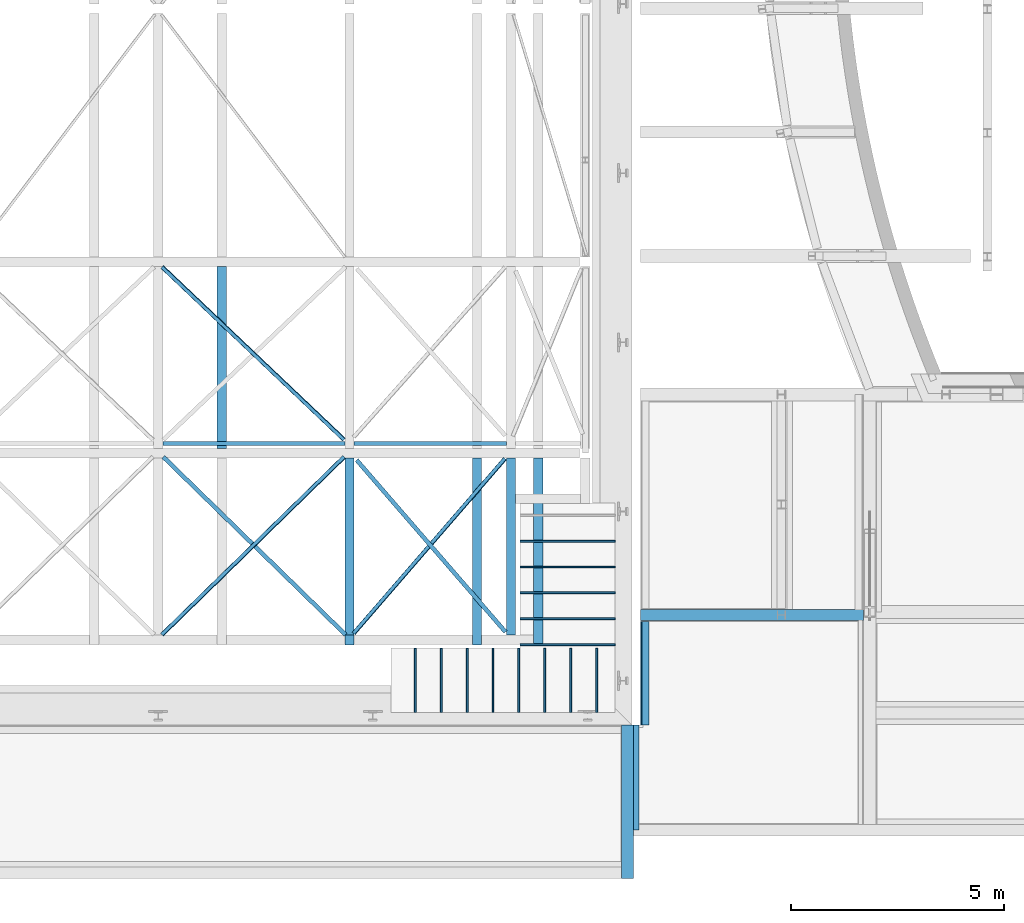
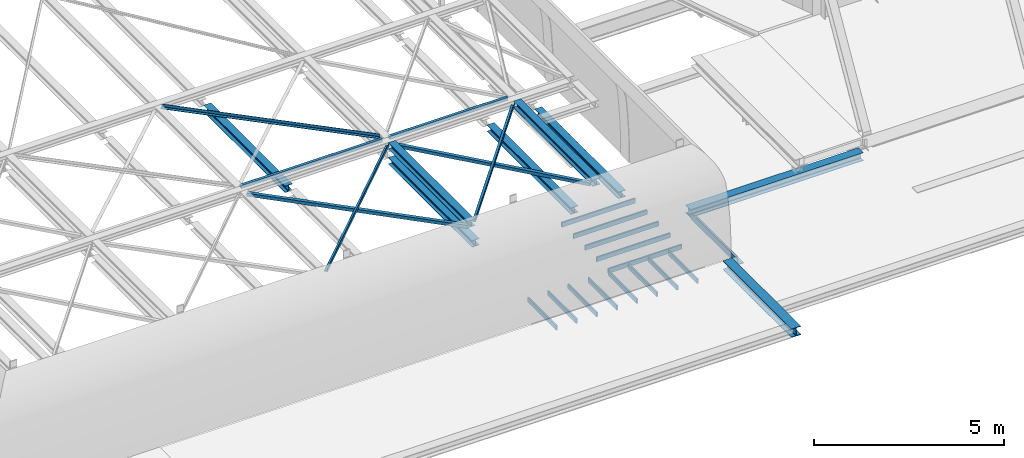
# One storey, part 12 of 38: 29 beams.
"""IFC2X3 building model written with IfcOpenShell, lengths in millimetres."""

from ifc_helpers import new_model, entity, si_unit, converted_unit, derived_unit, direction, frame, frame_2d, origin, place, context, subcontext, project, spatial, polyline, circle_curve, parameter, trimmed, segment, composite_curve, rectangle, i_section, outline, extrude, source, transform, mapped, material, material_list, type_object, type_shapes, element, save


model = new_model("IFC2X3")

# Units and contexts
model_context = context("Model", 3, precision=0.01, world=origin(), true_north=direction((6.12303176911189e-17, 1.0)))
body_context = subcontext(model_context, "Body", "Model", "MODEL_VIEW")
ifc_project = project(units=[si_unit("LENGTHUNIT", "METRE", prefix="MILLI"), si_unit("AREAUNIT", "SQUARE_METRE", prefix="MILLI"), si_unit("VOLUMEUNIT", "CUBIC_METRE"), converted_unit("PLANEANGLEUNIT", "DEGREE", entity("IfcRatioMeasure", 0.0174532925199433), si_unit("PLANEANGLEUNIT", "RADIAN"), dimensions=[0, 0, 0, 0, 0, 0, 0]), si_unit("MASSUNIT", "GRAM", prefix="KILO"), derived_unit("MASSDENSITYUNIT", [(si_unit("MASSUNIT", "GRAM", prefix="KILO"), 1), (si_unit("LENGTHUNIT", "METRE"), -3)]), derived_unit("MOMENTOFINERTIAUNIT", [(si_unit("LENGTHUNIT", "METRE"), 4)]), si_unit("TIMEUNIT", "SECOND"), si_unit("FREQUENCYUNIT", "HERTZ"), si_unit("THERMODYNAMICTEMPERATUREUNIT", "DEGREE_CELSIUS"), derived_unit("THERMALTRANSMITTANCEUNIT", [(si_unit("MASSUNIT", "GRAM", prefix="KILO"), 1), (si_unit("THERMODYNAMICTEMPERATUREUNIT", "KELVIN"), -1), (si_unit("TIMEUNIT", "SECOND"), -3)]), derived_unit("VOLUMETRICFLOWRATEUNIT", [(si_unit("LENGTHUNIT", "METRE"), 3), (si_unit("TIMEUNIT", "SECOND"), -1)]), si_unit("ELECTRICCURRENTUNIT", "AMPERE"), si_unit("ELECTRICVOLTAGEUNIT", "VOLT"), si_unit("POWERUNIT", "WATT"), si_unit("FORCEUNIT", "NEWTON", prefix="KILO"), si_unit("ILLUMINANCEUNIT", "LUX"), si_unit("LUMINOUSFLUXUNIT", "LUMEN"), si_unit("LUMINOUSINTENSITYUNIT", "CANDELA"), derived_unit("USERDEFINED", [(si_unit("MASSUNIT", "GRAM", prefix="KILO"), -1), (si_unit("LENGTHUNIT", "METRE"), -2), (si_unit("TIMEUNIT", "SECOND"), 3), (si_unit("LUMINOUSFLUXUNIT", "LUMEN"), 1)]), derived_unit("LINEARVELOCITYUNIT", [(si_unit("LENGTHUNIT", "METRE"), 1), (si_unit("TIMEUNIT", "SECOND"), -1)]), si_unit("PRESSUREUNIT", "PASCAL"), derived_unit("USERDEFINED", [(si_unit("LENGTHUNIT", "METRE"), -2), (si_unit("MASSUNIT", "GRAM", prefix="KILO"), 1), (si_unit("TIMEUNIT", "SECOND"), -2)]), derived_unit("LINEARFORCEUNIT", [(si_unit("MASSUNIT", "GRAM", prefix="KILO"), 1), (si_unit("LENGTHUNIT", "METRE"), 1), (si_unit("TIMEUNIT", "SECOND"), -2), (si_unit("LENGTHUNIT", "METRE"), -1)]), derived_unit("PLANARFORCEUNIT", [(si_unit("MASSUNIT", "GRAM", prefix="KILO"), 1), (si_unit("LENGTHUNIT", "METRE"), 1), (si_unit("TIMEUNIT", "SECOND"), -2), (si_unit("LENGTHUNIT", "METRE"), -2)])], contexts=[model_context])

# Site, building, storey
site_placement = place(None, origin())
site = spatial("IfcSite", under=ifc_project, at=site_placement, Name="Theater aan de Parade", CompositionType="ELEMENT")
building_placement = place(site_placement, origin())
building = spatial("IfcBuilding", under=site, at=building_placement, Name="Theater aan de Parade", CompositionType="ELEMENT")
storey_placement = place(building_placement, frame((0.0, 0.0, 12480.0)))
storey = spatial("IfcBuildingStorey", under=building, at=storey_placement, Name="03 derde verdieping", CompositionType="ELEMENT", Elevation=12480.0)

# Beams
ifc_material_1 = material(Name="00_PBT_MAT_staal_S355")
ifc_material_2 = material(Name="00_PBT_MAT_Lucht")
ifc_material_list = material_list([ifc_material_1, ifc_material_2])
beam_type_1 = type_object("IfcBeamType", Name="28_PBT_SF_staal_H-profiel_met_ondergelaste_strip (void):S355_HE280B + ondergelaste strip d=15", PredefinedType="BEAM", material=ifc_material_list)
shared_shape = source(origin(), body_context, "Body", "SweptSolid", [
    extrude(i_section(OverallWidth=279.999999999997, OverallDepth=280.000000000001, WebThickness=10.5000000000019, FlangeThickness=18.0000000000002, FilletRadius=23.9999999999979, at=frame_2d((6.49436060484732e-12, -2.1600499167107e-12), x_axis=(1.0, 0.0))), frame((37148.6081300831, 9057.0, 12015.0), z_axis=(0.0, 1.0, 0.0), x_axis=(-1.0, 0.0, 0.0)), (0.0, 0.0, 1.0), 3612.2267697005),
    extrude(rectangle(XDim=14.9999999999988, YDim=400.0, at=frame_2d((-2.17426077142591e-12, 1.08268949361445e-12), x_axis=(0.0, 1.0))), frame((37213.6081300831, 10207.0, 11867.5), z_axis=(0.0, 1.0, 0.0), x_axis=(-1.0, 0.0, 0.0)), (0.0, 0.0, 1.0), 2461.2267697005),
])
type_shapes(beam_type_1, [shared_shape])
beam_1_placement = place(storey_placement, frame((0.0, 0.0, -12480.0)))
element("IfcBeam", 1, at=beam_1_placement, inside=storey, type_object=beam_type_1, material=ifc_material_1, Name="28_PBT_SF_staal_H-profiel_met_ondergelaste_strip (void):S355_HE280B + ondergelaste strip d=15", ObjectType="28_PBT_SF_staal_H-profiel_met_ondergelaste_strip (void):S355_HE280B + ondergelaste strip d=15", context=body_context, shape_type="MappedRepresentation", body=[
    mapped(shared_shape, transform((0.0, 0.0, 0.0), scale=1.0)),
])
beam_type_2 = type_object("IfcBeamType", Name="28_PBT_SF_staal_H-profiel:S355_HE220A", PredefinedType="NOTDEFINED")
beam_2_placement = place(storey_placement, frame((30603.8570025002, 18958.2922984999, 1930.0), z_axis=(0.0, 0.0, 1.0), x_axis=(0.0, -1.0, 0.0)))
element("IfcBeam", 2, at=beam_2_placement, inside=storey, type_object=beam_type_2, material=ifc_material_1, Name="28_PBT_SF_staal_H-profiel:S355_HE220A", ObjectType="28_PBT_SF_staal_H-profiel:S355_HE220A", context=body_context, shape_type="SweptSolid", body=[
    extrude(i_section(OverallWidth=220.000000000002, OverallDepth=210.0, WebThickness=7.00000000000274, FlangeThickness=10.9999999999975, FilletRadius=18.0000000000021, at=frame_2d((0.0, -2.16715534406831e-12), x_axis=(0.0, 1.0))), frame((0.0, 0.0, -105.0), z_axis=(1.0, 0.0, 0.0), x_axis=(0.0, 0.0, -1.0)), (0.0, 0.0, 1.0), 4172.00167889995),
])
beam_3_placement = place(storey_placement, frame((34405.85634631, 18958.2922984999, 1930.0), z_axis=(0.0, 0.0, 1.0), x_axis=(0.0, -1.0, 0.0)))
element("IfcBeam", 3, at=beam_3_placement, inside=storey, type_object=beam_type_2, material=ifc_material_1, Name="28_PBT_SF_staal_H-profiel:S355_HE220A", ObjectType="28_PBT_SF_staal_H-profiel:S355_HE220A", context=body_context, shape_type="SweptSolid", body=[
    extrude(i_section(OverallWidth=220.000000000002, OverallDepth=210.0, WebThickness=7.00000000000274, FlangeThickness=10.9999999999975, FilletRadius=18.0000000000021, at=frame_2d((0.0, 2.16715534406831e-12), x_axis=(0.0, 1.0))), frame((0.0, 0.0, -105.0), z_axis=(1.0, 0.0, 0.0), x_axis=(0.0, 0.0, -1.0)), (0.0, 0.0, 1.0), 4172.00167889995),
])
beam_4_placement = place(storey_placement, frame((27603.8563463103, 23458.2922985, 1930.0), z_axis=(0.0, 0.0, 1.0), x_axis=(0.0, -1.0, 0.0)))
element("IfcBeam", 4, at=beam_4_placement, inside=storey, type_object=beam_type_2, material=ifc_material_1, Name="28_PBT_SF_staal_H-profiel:S355_HE220A", ObjectType="28_PBT_SF_staal_H-profiel:S355_HE220A", context=body_context, shape_type="SweptSolid", body=[
    extrude(i_section(OverallWidth=219.999999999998, OverallDepth=210.0, WebThickness=7.00000000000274, FlangeThickness=10.9999999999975, FilletRadius=18.0000000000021, at=frame_2d((-4.32720526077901e-12, -2.16715534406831e-12), x_axis=(0.0, 1.0))), frame((0.0, 0.0, -585.0), z_axis=(1.0, 0.0, 0.0), x_axis=(0.0, 0.0, -1.0)), (0.0, 0.0, 1.0), 4280.00000000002),
])
beam_5_placement = place(storey_placement, frame((33603.8563463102, 18958.2922985, 1930.0), z_axis=(0.0, 0.0, 1.0), x_axis=(0.0, -1.0, 0.0)))
element("IfcBeam", 5, at=beam_5_placement, inside=storey, type_object=beam_type_2, material=ifc_material_1, Name="28_PBT_SF_staal_H-profiel:S355_HE220A", ObjectType="28_PBT_SF_staal_H-profiel:S355_HE220A", context=body_context, shape_type="SweptSolid", body=[
    extrude(i_section(OverallWidth=219.999999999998, OverallDepth=210.0, WebThickness=7.00000000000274, FlangeThickness=10.9999999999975, FilletRadius=18.0000000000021, at=frame_2d((-2.16715534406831e-12, -6.50146603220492e-12), x_axis=(0.0, 1.0))), frame((0.0, 0.0, -585.0), z_axis=(1.0, 0.0, 0.0), x_axis=(0.0, 0.0, -1.0)), (0.0, 0.0, 1.0), 4402.00167890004),
])
beam_6_placement = place(storey_placement, frame((30603.8570025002, 18958.2922985, 1930.0), z_axis=(0.0, 0.0, 1.0), x_axis=(0.0, -1.0, 0.0)))
element("IfcBeam", 6, at=beam_6_placement, inside=storey, type_object=beam_type_2, material=ifc_material_1, Name="28_PBT_SF_staal_H-profiel:S355_HE220A", ObjectType="28_PBT_SF_staal_H-profiel:S355_HE220A", context=body_context, shape_type="SweptSolid", body=[
    extrude(i_section(OverallWidth=219.999999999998, OverallDepth=210.0, WebThickness=7.00000000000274, FlangeThickness=10.9999999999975, FilletRadius=18.0000000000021, at=frame_2d((-2.16715534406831e-12, 2.16715534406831e-12), x_axis=(0.0, 1.0))), frame((0.0, 0.0, -585.0), z_axis=(1.0, 0.0, 0.0), x_axis=(0.0, 0.0, -1.0)), (0.0, 0.0, 1.0), 4402.00167890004),
])
beam_7_placement = place(storey_placement, frame((35043.8557463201, 18958.2922985, 1930.0), z_axis=(0.0, 0.0, 1.0), x_axis=(0.0, -1.0, 0.0)))
element("IfcBeam", 7, at=beam_7_placement, inside=storey, type_object=beam_type_2, material=ifc_material_1, Name="28_PBT_SF_staal_H-profiel:S355_HE220A", ObjectType="28_PBT_SF_staal_H-profiel:S355_HE220A", context=body_context, shape_type="SweptSolid", body=[
    extrude(i_section(OverallWidth=219.999999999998, OverallDepth=210.0, WebThickness=7.00000000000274, FlangeThickness=10.9999999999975, FilletRadius=18.0000000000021, at=frame_2d((-2.16715534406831e-12, 6.50146603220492e-12), x_axis=(0.0, 1.0))), frame((0.0, 0.0, -585.0), z_axis=(1.0, 0.0, 0.0), x_axis=(0.0, 0.0, -1.0)), (0.0, 0.0, 1.0), 4402.00167890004),
])
beam_type_3 = type_object("IfcBeamType", Name="28_PBT_SF_staal_L-profiel:S355_L200x200x20", PredefinedType="NOTDEFINED")
beam_8_placement = place(storey_placement, frame((37510.6581300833, 12669.2267697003, 0.0), z_axis=(0.0, 0.0, 1.0), x_axis=(0.0, 1.0, 0.0)))
element("IfcBeam", 8, at=beam_8_placement, inside=storey, type_object=beam_type_3, material=ifc_material_1, Name="28_PBT_SF_staal_L-profiel:S355_L200x200x20", ObjectType="28_PBT_SF_staal_L-profiel:S355_L200x200x20", context=body_context, shape_type="SweptSolid", body=[
    extrude(outline(composite_curve([segment(polyline([(64.5555555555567, -124.444444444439), (75.5555555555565, -124.444444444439)]), True, "CONTINUOUS"), segment(polyline([(75.5555555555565, -124.444444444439), (75.5555555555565, 75.5555555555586)]), True, "CONTINUOUS"), segment(polyline([(75.5555555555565, 75.5555555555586), (-124.444444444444, 75.5555555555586)]), True, "CONTINUOUS"), segment(polyline([(-124.444444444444, 75.5555555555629), (-124.444444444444, 64.5555555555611)]), True, "CONTINUOUS"), segment(trimmed(circle_curve(frame_2d((-115.444444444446, 64.5555555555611), x_axis=(-1.0, 0.0)), 8.99999999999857), [parameter(0.0)], [parameter(90.0000000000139)], True, "PARAMETER"), True, "CONTINUOUS"), segment(polyline([(-115.444444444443, 55.5555555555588), (37.5555555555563, 55.5555555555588)]), True, "CONTINUOUS"), segment(trimmed(circle_curve(frame_2d((37.5555555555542, 37.5555555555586), x_axis=(0.0, 1.0)), 18.0000000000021), [parameter(270.000000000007)], [parameter(0.0)], True, "PARAMETER"), False, "CONTINUOUS"), segment(polyline([(55.5555555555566, 37.5555555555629), (55.5555555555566, -115.444444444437)]), True, "CONTINUOUS"), segment(trimmed(circle_curve(frame_2d((64.5555555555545, -115.444444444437), x_axis=(-1.0, 0.0)), 8.99999999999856), [parameter(0.0)], [parameter(90.0000000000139)], True, "PARAMETER"), True, "CONTINUOUS")], self_intersect=False)), frame((0.0, -18.7555555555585, -549.444444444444), z_axis=(1.0, 0.0, 0.0), x_axis=(0.0, 0.0, -1.0)), (0.0, 0.0, 1.0), 2440.25734099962),
])
beam_type_4 = type_object("IfcBeamType", Name="28_PBT_SF_staal_L-profiel:S355_L100x100x10", PredefinedType="NOTDEFINED")
beam_9_placement = place(storey_placement, frame((30603.8570025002, 19296.2906196, 1930.0), z_axis=(0.0, 0.0, 1.0), x_axis=(-0.725240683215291, 0.688495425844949, 0.0)))
element("IfcBeam", 9, at=beam_9_placement, inside=storey, type_object=beam_type_4, material=ifc_material_1, Name="28_PBT_SF_staal_L-profiel:S355_L100x100x10", ObjectType="28_PBT_SF_staal_L-profiel:S355_L100x100x10", context=body_context, shape_type="SweptSolid", body=[
    extrude(outline(composite_curve([segment(polyline([(-62.2222222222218, -37.7777777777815), (37.7777777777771, -37.7777777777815)]), True, "CONTINUOUS"), segment(polyline([(37.7777777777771, -37.7777777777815), (37.7777777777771, 62.2222222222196)]), True, "CONTINUOUS"), segment(polyline([(37.7777777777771, 62.2222222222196), (33.777777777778, 62.2222222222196)]), True, "CONTINUOUS"), segment(trimmed(circle_curve(frame_2d((33.7777777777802, 56.222222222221), x_axis=(0.0, 1.0)), 6.00000000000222), [parameter(0.0)], [parameter(89.9999999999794)], True, "PARAMETER"), True, "CONTINUOUS"), segment(polyline([(27.7777777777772, 56.222222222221), (27.7777777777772, -15.7777777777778)]), True, "CONTINUOUS"), segment(trimmed(circle_curve(frame_2d((15.7777777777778, -15.7777777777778), x_axis=(1.0, 0.0)), 11.9999999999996), [parameter(270.0)], [parameter(0.0)], True, "PARAMETER"), False, "CONTINUOUS"), segment(polyline([(15.7777777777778, -27.7777777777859), (-56.2222222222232, -27.7777777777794)]), True, "CONTINUOUS"), segment(trimmed(circle_curve(frame_2d((-56.2222222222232, -33.7777777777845), x_axis=(0.0, 1.0)), 6.00000000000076), [parameter(0.0)], [parameter(89.9999999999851)], True, "PARAMETER"), True, "CONTINUOUS"), segment(polyline([(-62.2222222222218, -33.7777777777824), (-62.2222222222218, -37.7777777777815)]), True, "CONTINUOUS")], self_intersect=False)), frame((150.0, 9.57777777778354, -67.2222222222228), z_axis=(1.0, 0.0, 0.0), x_axis=(0.0, 0.0, -1.0)), (0.0, 0.0, 1.0), 5904.83668959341),
])
beam_10_placement = place(storey_placement, frame((30603.8570025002, 19068.2922984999, 1930.0), z_axis=(0.0, 0.0, 1.0), x_axis=(-0.71564225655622, -0.698467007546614, 0.0)))
element("IfcBeam", 10, at=beam_10_placement, inside=storey, type_object=beam_type_4, material=ifc_material_1, Name="28_PBT_SF_staal_L-profiel:S355_L100x100x10", ObjectType="28_PBT_SF_staal_L-profiel:S355_L100x100x10", context=body_context, shape_type="SweptSolid", body=[
    extrude(outline(composite_curve([segment(polyline([(33.7777777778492, -62.2222222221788), (37.7777777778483, -62.2222222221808)]), True, "CONTINUOUS"), segment(polyline([(37.7777777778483, -62.2222222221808), (37.7777777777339, 37.7777777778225)]), True, "CONTINUOUS"), segment(polyline([(37.7777777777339, 37.7777777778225), (-62.222222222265, 37.7777777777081)]), True, "CONTINUOUS"), segment(polyline([(-62.222222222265, 37.7777777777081), (-62.2222222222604, 33.7777777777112)]), True, "CONTINUOUS"), segment(trimmed(circle_curve(frame_2d((-56.222222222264, 33.7777777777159), x_axis=(-1.0, 0.0)), 5.99999999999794), [parameter(0.0)], [parameter(90.0000000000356)], True, "PARAMETER"), True, "CONTINUOUS"), segment(polyline([(-56.2222222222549, 27.7777777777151), (15.777777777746, 27.7777777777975)]), True, "CONTINUOUS"), segment(trimmed(circle_curve(frame_2d((15.7777777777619, 15.7777777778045), x_axis=(0.0, 1.0)), 11.9999999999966), [parameter(269.999999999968)], [parameter(0.0)], True, "PARAMETER"), False, "CONTINUOUS"), segment(polyline([(27.7777777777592, 15.7777777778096), (27.7777777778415, -56.2222222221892)]), True, "CONTINUOUS"), segment(trimmed(circle_curve(frame_2d((33.7777777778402, -56.2222222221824), x_axis=(-1.0, 0.0)), 5.99999999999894), [parameter(0.0)], [parameter(90.0000000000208)], True, "PARAMETER"), True, "CONTINUOUS")], self_intersect=False)), frame((150.0, -9.57777777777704, -67.2222222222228), z_axis=(1.0, 0.0, 0.0), x_axis=(0.0, 0.0, -1.0)), (0.0, 0.0, 1.0), 5988.05889390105),
])
beam_11_placement = place(storey_placement, frame((26103.8570025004, 19068.2922984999, 1930.0), z_axis=(0.0, 0.0, 1.0), x_axis=(0.715642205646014, -0.698467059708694, 0.0)))
element("IfcBeam", 11, at=beam_11_placement, inside=storey, type_object=beam_type_4, material=ifc_material_1, Name="28_PBT_SF_staal_L-profiel:S355_L100x100x10", ObjectType="28_PBT_SF_staal_L-profiel:S355_L100x100x10", context=body_context, shape_type="SweptSolid", body=[
    extrude(outline(composite_curve([segment(polyline([(-37.7777777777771, -37.7777777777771), (62.2222222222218, -37.7777777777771)]), True, "CONTINUOUS"), segment(polyline([(62.2222222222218, -37.7777777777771), (62.2222222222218, -33.7777777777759)]), True, "CONTINUOUS"), segment(trimmed(circle_curve(frame_2d((56.2222222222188, -33.7777777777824), x_axis=(1.0, 0.0)), 6.00000000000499), [parameter(0.0)], [parameter(89.9999999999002)], True, "PARAMETER"), True, "CONTINUOUS"), segment(polyline([(56.2222222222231, -27.7777777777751), (-15.7777777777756, -27.7777777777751)]), True, "CONTINUOUS"), segment(trimmed(circle_curve(frame_2d((-15.77777777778, -15.7777777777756), x_axis=(0.0, -1.0)), 11.9999999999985), [parameter(269.99999999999)], [parameter(0.0)], True, "PARAMETER"), False, "CONTINUOUS"), segment(polyline([(-27.7777777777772, -15.7777777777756), (-27.7777777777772, 56.2222222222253)]), True, "CONTINUOUS"), segment(trimmed(circle_curve(frame_2d((-33.7777777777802, 56.2222222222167), x_axis=(1.0, 0.0)), 6.00000000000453), [parameter(0.0)], [parameter(89.999999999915)], True, "PARAMETER"), True, "CONTINUOUS"), segment(polyline([(-33.7777777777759, 62.2222222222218), (-37.777777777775, 62.2222222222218)]), True, "CONTINUOUS"), segment(polyline([(-37.7777777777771, 62.2222222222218), (-37.7777777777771, -37.7777777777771)]), True, "CONTINUOUS")], self_intersect=False)), frame((150.0, 9.57777777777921, -144.577777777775), z_axis=(1.0, 0.0, 0.0), x_axis=(0.0, 0.0, -1.0)), (0.0, 0.0, 1.0), 5988.05842430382),
])
beam_12_placement = place(storey_placement, frame((34405.8570025, 19068.2922984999, 1930.0), z_axis=(0.0, 0.0, 1.0), x_axis=(-0.654497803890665, -0.756063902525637, 0.0)))
element("IfcBeam", 12, at=beam_12_placement, inside=storey, type_object=beam_type_4, material=ifc_material_1, Name="28_PBT_SF_staal_L-profiel:S355_L100x100x10", ObjectType="28_PBT_SF_staal_L-profiel:S355_L100x100x10", context=body_context, shape_type="SweptSolid", body=[
    extrude(outline(composite_curve([segment(polyline([(33.777777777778, -62.222222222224), (37.7777777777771, -62.222222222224)]), True, "CONTINUOUS"), segment(polyline([(37.7777777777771, -62.222222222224), (37.7777777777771, 37.777777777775)]), True, "CONTINUOUS"), segment(polyline([(37.7777777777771, 37.777777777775), (-62.2222222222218, 37.777777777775)]), True, "CONTINUOUS"), segment(polyline([(-62.2222222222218, 37.777777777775), (-62.2222222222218, 33.7777777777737)]), True, "CONTINUOUS"), segment(trimmed(circle_curve(frame_2d((-56.222222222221, 33.777777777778), x_axis=(-1.0, 0.0)), 6.00000000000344), [parameter(0.0)], [parameter(89.9999999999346)], True, "PARAMETER"), True, "CONTINUOUS"), segment(polyline([(-56.2222222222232, 27.7777777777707), (15.7777777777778, 27.7777777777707)]), True, "CONTINUOUS"), segment(trimmed(circle_curve(frame_2d((15.77777777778, 15.7777777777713), x_axis=(0.0, 1.0)), 11.9999999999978), [parameter(269.999999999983)], [parameter(0.0)], True, "PARAMETER"), False, "CONTINUOUS"), segment(polyline([(27.7777777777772, 15.7777777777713), (27.7777777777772, -56.2222222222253)]), True, "CONTINUOUS"), segment(trimmed(circle_curve(frame_2d((33.7777777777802, -56.222222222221), x_axis=(-1.0, 0.0)), 6.00000000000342), [parameter(0.0)], [parameter(89.9999999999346)], True, "PARAMETER"), True, "CONTINUOUS")], self_intersect=False)), frame((190.660842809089, -9.57777777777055, -67.2222222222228), z_axis=(1.0, 0.0, 0.0), x_axis=(0.0, 0.0, -1.0)), (0.0, 0.0, 1.0), 5442.42242442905),
])
beam_13_placement = place(storey_placement, frame((30603.8570024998, 19068.2922984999, 1930.0), z_axis=(0.0, 0.0, 1.0), x_axis=(0.65449767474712, -0.756064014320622, 0.0)))
element("IfcBeam", 13, at=beam_13_placement, inside=storey, type_object=beam_type_4, material=ifc_material_1, Name="28_PBT_SF_staal_L-profiel:S355_L100x100x10", ObjectType="28_PBT_SF_staal_L-profiel:S355_L100x100x10", context=body_context, shape_type="SweptSolid", body=[
    extrude(outline(composite_curve([segment(polyline([(-37.7777777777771, -37.777777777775), (62.2222222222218, -37.777777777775)]), True, "CONTINUOUS"), segment(polyline([(62.2222222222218, -37.777777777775), (62.2222222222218, -33.7777777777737)]), True, "CONTINUOUS"), segment(trimmed(circle_curve(frame_2d((56.2222222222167, -33.7777777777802), x_axis=(1.0, 0.0)), 6.00000000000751), [parameter(0.0)], [parameter(89.9999999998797)], True, "PARAMETER"), True, "CONTINUOUS"), segment(polyline([(56.2222222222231, -27.7777777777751), (-15.7777777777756, -27.7777777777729)]), True, "CONTINUOUS"), segment(trimmed(circle_curve(frame_2d((-15.77777777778, -15.7777777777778), x_axis=(0.0, -1.0)), 11.9999999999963), [parameter(269.999999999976)], [parameter(0.0)], True, "PARAMETER"), False, "CONTINUOUS"), segment(polyline([(-27.7777777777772, -15.7777777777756), (-27.7777777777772, 56.222222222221)]), True, "CONTINUOUS"), segment(trimmed(circle_curve(frame_2d((-33.7777777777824, 56.2222222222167), x_axis=(1.0, 0.0)), 6.00000000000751), [parameter(0.0)], [parameter(89.9999999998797)], True, "PARAMETER"), True, "CONTINUOUS"), segment(polyline([(-33.7777777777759, 62.222222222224), (-37.777777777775, 62.2222222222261)]), True, "CONTINUOUS"), segment(polyline([(-37.7777777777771, 62.222222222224), (-37.7777777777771, -37.777777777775)]), True, "CONTINUOUS")], self_intersect=False)), frame((235.529860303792, 9.57777777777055, -144.577777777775), z_axis=(1.0, 0.0, 0.0), x_axis=(0.0, 0.0, -1.0)), (0.0, 0.0, 1.0), 5347.71696600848),
])
beam_type_5 = type_object("IfcBeamType", Name="28_PBT_SF_staal_H-profiel (void):S355_HE260B", PredefinedType="NOTDEFINED")
beam_14_placement = place(storey_placement, frame((37453.8581300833, 15259.4841107, 0.0)))
element("IfcBeam", 14, at=beam_14_placement, inside=storey, type_object=beam_type_5, material=ifc_material_1, Name="28_PBT_SF_staal_H-profiel (void):S355_HE260B", ObjectType="28_PBT_SF_staal_H-profiel (void):S355_HE260B", context=body_context, shape_type="SweptSolid", body=[
    extrude(outline(composite_curve([segment(polyline([(112.50000000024, -130.0), (130.0, -130.0)]), True, "CONTINUOUS"), segment(polyline([(130.0, -130.0), (130.0, 130.0)]), True, "CONTINUOUS"), segment(polyline([(130.0, 130.0), (112.499999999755, 130.0)]), True, "CONTINUOUS"), segment(polyline([(112.499999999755, 130.0), (112.499999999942, 29.0)]), True, "CONTINUOUS"), segment(trimmed(circle_curve(frame_2d((88.499999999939, 29.0), x_axis=(1.0, 0.0)), 24.0000000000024), [parameter(270.00000000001)], [parameter(0.0)], True, "PARAMETER"), False, "CONTINUOUS"), segment(polyline([(88.4999999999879, 5.0), (-88.500000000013, 5.0)]), True, "CONTINUOUS"), segment(trimmed(circle_curve(frame_2d((-88.5000000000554, 29.0), x_axis=(0.0, -1.0)), 24.0000000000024), [parameter(270.00000000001)], [parameter(0.0)], True, "PARAMETER"), False, "CONTINUOUS"), segment(polyline([(-112.500000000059, 29.0), (-112.500000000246, 130.0)]), True, "CONTINUOUS"), segment(polyline([(-112.500000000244, 130.0), (-130.0, 130.0)]), True, "CONTINUOUS"), segment(polyline([(-130.0, 130.0), (-130.0, -130.0)]), True, "CONTINUOUS"), segment(polyline([(-130.0, -130.0), (-112.499999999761, -130.0)]), True, "CONTINUOUS"), segment(polyline([(-112.499999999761, -130.0), (-112.499999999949, -29.0)]), True, "CONTINUOUS"), segment(trimmed(circle_curve(frame_2d((-88.4999999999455, -29.0), x_axis=(-1.0, 0.0)), 24.000000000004), [parameter(270.000000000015)], [parameter(0.0)], True, "PARAMETER"), False, "CONTINUOUS"), segment(polyline([(-88.4999999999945, -5.0), (88.5000000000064, -5.0)]), True, "CONTINUOUS"), segment(trimmed(circle_curve(frame_2d((88.5000000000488, -29.0), x_axis=(0.0, 1.0)), 24.0000000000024), [parameter(270.00000000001)], [parameter(0.0)], True, "PARAMETER"), False, "CONTINUOUS"), segment(polyline([(112.50000000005, -29.0), (112.500000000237, -130.0)]), True, "CONTINUOUS")], self_intersect=False)), frame((0.0, 0.0, -470.0), z_axis=(1.0, 0.0, 0.0), x_axis=(0.0, 0.0, -1.0)), (0.0, 0.0, 1.0), 5241.05103335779),
])
ifc_material_3 = material(Name="00_PBT_MAT_hout")
beam_type_6 = type_object("IfcBeamType", Name="28_PBT_SF_rechthoekig hout:46x146", PredefinedType="NOTDEFINED")
for number, where, z_axis, x_axis, name in (
    (15, (32150.8505678, 12969.2267697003, 0.0), (0.0, 0.0, 1.0), (0.0, 1.0, 0.0), "28_PBT_SF_rechthoekig hout:46x146"),
    (16, (32760.8505678, 12969.2267697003, 0.0), (0.0, 0.0, 1.0), (0.0, 1.0, 0.0), "28_PBT_SF_rechthoekig hout:46x146"),
    (17, (33370.8505678, 12969.2267697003, 0.0), (0.0, 0.0, 1.0), (0.0, 1.0, 0.0), "28_PBT_SF_rechthoekig hout:46x146"),
    (18, (33980.8505678, 12969.2267697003, 0.0), (0.0, 0.0, 1.0), (0.0, 1.0, 0.0), "28_PBT_SF_rechthoekig hout:46x146"),
    (19, (34590.8505678, 12969.2267697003, 0.0), (0.0, 0.0, 1.0), (0.0, 1.0, 0.0), "28_PBT_SF_rechthoekig hout:46x146"),
    (20, (35200.8505678, 12969.2267697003, 0.0), (0.0, 0.0, 1.0), (0.0, 1.0, 0.0), "28_PBT_SF_rechthoekig hout:46x146"),
    (21, (35810.8505678, 12969.2267697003, 0.0), (0.0, 0.0, 1.0), (0.0, 1.0, 0.0), "28_PBT_SF_rechthoekig hout:46x146"),
    (22, (36420.8505678, 12969.2267697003, 0.0), (0.0, 0.0, 1.0), (0.0, 1.0, 0.0), "28_PBT_SF_rechthoekig hout:46x146"),
):
    element("IfcBeam", number, at=place(storey_placement, frame(where, z_axis=z_axis, x_axis=x_axis)), inside=storey, type_object=beam_type_6, material=ifc_material_3, Name=name, ObjectType="28_PBT_SF_rechthoekig hout:46x146", context=body_context, shape_type="SweptSolid", body=[
        extrude(rectangle(XDim=146.000000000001, YDim=46.0000000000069, at=frame_2d((-1.08002495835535e-12, 0.0), x_axis=(1.0, 0.0))), frame((0.0, 0.0, -957.0), z_axis=(1.0, 0.0, 0.0), x_axis=(0.0, 0.0, -1.0)), (0.0, 0.0, 1.0), 1505.06385393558),
    ])
for number, where, z_axis, x_axis, name in (
    (23, (36853.8581300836, 14559.2906236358, 0.0), (0.0, 0.0, 1.0), (-1.0, 0.0, 0.0), "28_PBT_SF_rechthoekig hout:46x146"),
    (24, (36853.8581300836, 15169.2906236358, 0.0), (0.0, 0.0, 1.0), (-1.0, 0.0, 0.0), "28_PBT_SF_rechthoekig hout:46x146"),
    (25, (36853.8581300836, 15779.2906236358, 0.0), (0.0, 0.0, 1.0), (-1.0, 0.0, 0.0), "28_PBT_SF_rechthoekig hout:46x146"),
    (26, (36853.8581300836, 16389.2906236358, 0.0), (0.0, 0.0, 1.0), (-1.0, 0.0, 0.0), "28_PBT_SF_rechthoekig hout:46x146"),
    (27, (36853.8581300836, 16999.2906236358, 0.0), (0.0, 0.0, 1.0), (-1.0, 0.0, 0.0), "28_PBT_SF_rechthoekig hout:46x146"),
):
    element("IfcBeam", number, at=place(storey_placement, frame(where, z_axis=z_axis, x_axis=x_axis)), inside=storey, type_object=beam_type_6, material=ifc_material_3, Name=name, ObjectType="28_PBT_SF_rechthoekig hout:46x146", context=body_context, shape_type="SweptSolid", body=[
        extrude(rectangle(XDim=146.000000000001, YDim=46.0000000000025, at=frame_2d((-1.08002495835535e-12, 7.57971463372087e-12), x_axis=(1.0, 0.0))), frame((0.0, 0.0, -957.0), z_axis=(1.0, 0.0, 0.0), x_axis=(0.0, 0.0, -1.0)), (0.0, 0.0, 1.0), 2232.99983011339),
    ])
beam_type_7 = type_object("IfcBeamType", Name="28_PBT_SF_staal_koker:S355_K100x100x8", PredefinedType="NOTDEFINED")
beam_15_placement = place(storey_placement, frame((26213.8570025, 19296.2906196, 1930.0)))
element("IfcBeam", 28, at=beam_15_placement, inside=storey, type_object=beam_type_7, material=ifc_material_1, Name="28_PBT_SF_staal_koker:S355_K100x100x8", ObjectType="28_PBT_SF_staal_koker:S355_K100x100x8", context=body_context, shape_type="SweptSolid", body=[
    extrude(outline(composite_curve([segment(polyline([(-38.0, -50.0), (38.0, -50.0)]), True, "CONTINUOUS"), segment(trimmed(circle_curve(frame_2d((38.0, -38.0), x_axis=(0.0, 1.0)), 12.0), [parameter(180.0)], [parameter(270.0)], True, "PARAMETER"), True, "CONTINUOUS"), segment(polyline([(50.0, -38.0), (50.0, 38.0)]), True, "CONTINUOUS"), segment(trimmed(circle_curve(frame_2d((38.0, 38.0), x_axis=(0.0, 1.0)), 12.0), [parameter(270.0)], [parameter(360.0)], True, "PARAMETER"), True, "CONTINUOUS"), segment(polyline([(38.0, 50.0), (-38.0, 50.0)]), True, "CONTINUOUS"), segment(trimmed(circle_curve(frame_2d((-38.0, 38.0), x_axis=(0.0, 1.0)), 12.0), [parameter(0.0)], [parameter(90.0000000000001)], True, "PARAMETER"), True, "CONTINUOUS"), segment(polyline([(-50.0, 38.0), (-50.0, -38.0)]), True, "CONTINUOUS"), segment(trimmed(circle_curve(frame_2d((-38.0, -38.0), x_axis=(0.0, 1.0)), 12.0), [parameter(90.0)], [parameter(180.0)], True, "PARAMETER"), True, "CONTINUOUS")], self_intersect=False), holes=[composite_curve([segment(polyline([(42.0, 34.0), (42.0, -34.0)]), True, "CONTINUOUS"), segment(trimmed(circle_curve(frame_2d((34.0, -34.0), x_axis=(0.0, 1.0)), 8.0), [parameter(180.0)], [parameter(270.0)], True, "PARAMETER"), False, "CONTINUOUS"), segment(polyline([(34.0, -42.0), (-34.0, -42.0)]), True, "CONTINUOUS"), segment(trimmed(circle_curve(frame_2d((-34.0, -34.0), x_axis=(0.0, 1.0)), 8.0), [parameter(90.0)], [parameter(180.0)], True, "PARAMETER"), False, "CONTINUOUS"), segment(polyline([(-42.0, -34.0), (-42.0, 34.0)]), True, "CONTINUOUS"), segment(trimmed(circle_curve(frame_2d((-34.0, 34.0), x_axis=(0.0, 1.0)), 8.0), [parameter(3.56222124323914e-13)], [parameter(90.0000000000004)], True, "PARAMETER"), False, "CONTINUOUS"), segment(polyline([(-34.0, 42.0), (34.0, 42.0)]), True, "CONTINUOUS"), segment(trimmed(circle_curve(frame_2d((34.0, 34.0), x_axis=(0.0, 1.0)), 8.0), [parameter(270.0)], [parameter(5.08888749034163e-14)], True, "PARAMETER"), False, "CONTINUOUS")], self_intersect=False)]), frame((0.0, 0.0, -110.0), z_axis=(1.0, 0.0, 0.0), x_axis=(0.0, 0.0, 1.0)), (0.0, 0.0, 1.0), 4280.00000000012),
])
beam_16_placement = place(storey_placement, frame((30713.8570025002, 19296.2906196, 1930.0)))
element("IfcBeam", 29, at=beam_16_placement, inside=storey, type_object=beam_type_7, material=ifc_material_1, Name="28_PBT_SF_staal_koker:S355_K100x100x8", ObjectType="28_PBT_SF_staal_koker:S355_K100x100x8", context=body_context, shape_type="SweptSolid", body=[
    extrude(outline(composite_curve([segment(polyline([(-38.0, -50.0), (38.0, -50.0)]), True, "CONTINUOUS"), segment(trimmed(circle_curve(frame_2d((38.0, -38.0), x_axis=(0.0, 1.0)), 12.0), [parameter(180.0)], [parameter(270.0)], True, "PARAMETER"), True, "CONTINUOUS"), segment(polyline([(50.0, -38.0), (50.0, 38.0)]), True, "CONTINUOUS"), segment(trimmed(circle_curve(frame_2d((38.0, 38.0), x_axis=(0.0, 1.0)), 12.0), [parameter(270.0)], [parameter(360.0)], True, "PARAMETER"), True, "CONTINUOUS"), segment(polyline([(38.0, 50.0), (-38.0, 50.0)]), True, "CONTINUOUS"), segment(trimmed(circle_curve(frame_2d((-38.0, 38.0), x_axis=(0.0, 1.0)), 12.0), [parameter(0.0)], [parameter(90.0000000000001)], True, "PARAMETER"), True, "CONTINUOUS"), segment(polyline([(-50.0, 38.0), (-50.0, -38.0)]), True, "CONTINUOUS"), segment(trimmed(circle_curve(frame_2d((-38.0, -38.0), x_axis=(0.0, 1.0)), 12.0), [parameter(90.0)], [parameter(180.0)], True, "PARAMETER"), True, "CONTINUOUS")], self_intersect=False), holes=[composite_curve([segment(polyline([(42.0, 34.0), (42.0, -34.0)]), True, "CONTINUOUS"), segment(trimmed(circle_curve(frame_2d((34.0, -34.0), x_axis=(0.0, 1.0)), 8.0), [parameter(180.0)], [parameter(270.0)], True, "PARAMETER"), False, "CONTINUOUS"), segment(polyline([(34.0, -42.0), (-34.0, -42.0)]), True, "CONTINUOUS"), segment(trimmed(circle_curve(frame_2d((-34.0, -34.0), x_axis=(0.0, 1.0)), 8.0), [parameter(90.0)], [parameter(180.0)], True, "PARAMETER"), False, "CONTINUOUS"), segment(polyline([(-42.0, -34.0), (-42.0, 34.0)]), True, "CONTINUOUS"), segment(trimmed(circle_curve(frame_2d((-34.0, 34.0), x_axis=(0.0, 1.0)), 8.0), [parameter(3.56222124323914e-13)], [parameter(90.0000000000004)], True, "PARAMETER"), False, "CONTINUOUS"), segment(polyline([(-34.0, 42.0), (34.0, 42.0)]), True, "CONTINUOUS"), segment(trimmed(circle_curve(frame_2d((34.0, 34.0), x_axis=(0.0, 1.0)), 8.0), [parameter(270.0)], [parameter(5.08888749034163e-14)], True, "PARAMETER"), False, "CONTINUOUS")], self_intersect=False)]), frame((0.0, 0.0, -110.0), z_axis=(1.0, 0.0, 0.0), x_axis=(0.0, 0.0, 1.0)), (0.0, 0.0, 1.0), 3582.00000000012),
])

save(model, "model.ifc")
